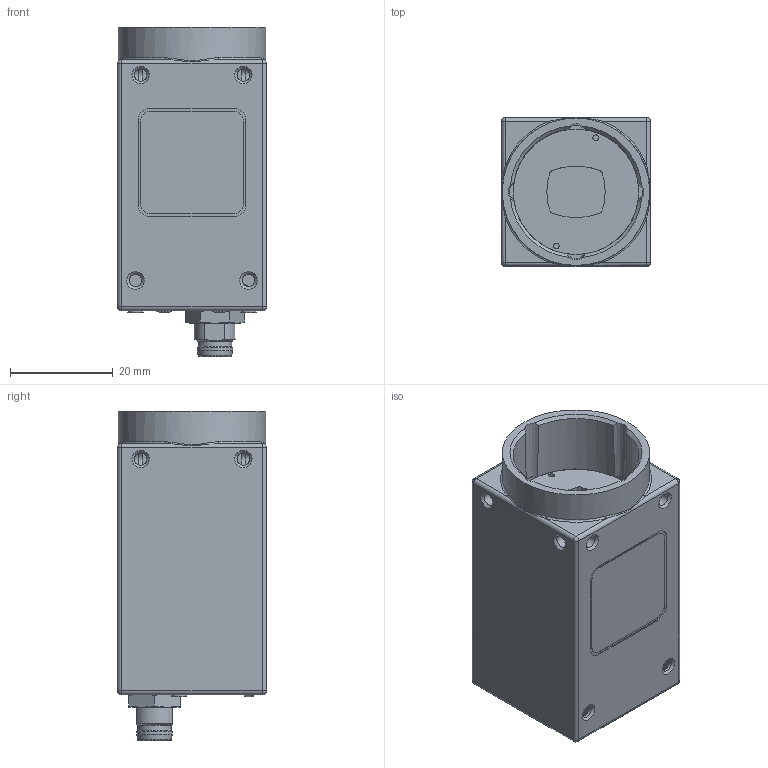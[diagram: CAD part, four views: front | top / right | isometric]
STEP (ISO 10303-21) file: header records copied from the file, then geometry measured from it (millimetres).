
FILE_DESCRIPTION( ( 'Unknown' ), '1' );
FILE_NAME( 'C:/Users/rih/Desktop/11175753_VCXG-125M.R.stp', 'Unknown', ( 'Unknown' ), ( 'Unknown' ), 'PSStep 19.0.9', 'Unknown', ' ' );
FILE_SCHEMA( ( 'AUTOMOTIVE_DESIGN { 1 0 10303 214 1 1 1 1 }' ) );
Length unit declared in the file: millimetre
Products named in the file (5): 11080147
Bounding box: 29 x 29 x 64.05 mm (x, y, z)
Volume: 13500.9 mm3; surface area: 22525.1 mm2
Topology: 5 solids, 9 shells, 2222 faces, 5951 edges, 3862 vertices
Faces by surface type: plane 1287, cylinder 718, cone 72, torus 53, sphere 48, bspline 36, extrusion 8
Full cylindrical faces by diameter (mm): 0.217 x1, 0.6 x143, 1.1 x2, 1.4 x4, 1.567 x2, 1.6 x2, 1.9 x4, 2.459 x10, 3 x4, 6.5 x1, 6.9 x1, 8.4 x1, 9 x1, 9.4 x1, 24.4 x1, 26 x1, 28.7 x1
Entity records: 87797 total; most frequent: CARTESIAN_POINT 16163, DIRECTION 11059, ORIENTED_EDGE 10980, EDGE_CURVE 5490, AXIS2_PLACEMENT_3D 3801, VERTEX_POINT 3663, VECTOR 3457, LINE 3449
